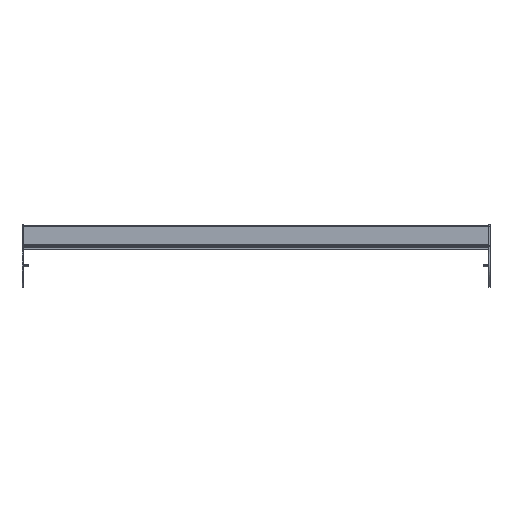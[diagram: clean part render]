
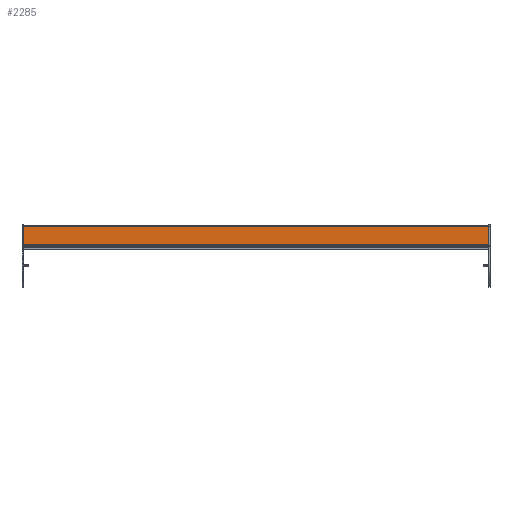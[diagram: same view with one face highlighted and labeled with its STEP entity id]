
A CAD part, top view. The second image highlights one B-rep face of the part: STEP entity #2285.
In plain terms, the highlighted planar face has unit normal (0, 0, 1) as drawn and (1, 0, 0) by its records, which use the part's own axes.
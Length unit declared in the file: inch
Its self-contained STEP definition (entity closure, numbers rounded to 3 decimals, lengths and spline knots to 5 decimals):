
#197=DIRECTION('',(0.,1.,0.));
#198=VECTOR('',#197,1.81445);
#199=CARTESIAN_POINT('',(0.683,-0.84545,-23.118));
#200=LINE('',#199,#198);
#303=DIRECTION('',(0.,1.,0.));
#304=VECTOR('',#303,1.81445);
#305=CARTESIAN_POINT('',(0.683,-0.84545,23.118));
#306=LINE('',#305,#304);
#646=DIRECTION('',(0.,0.,1.));
#647=VECTOR('',#646,46.236);
#648=CARTESIAN_POINT('',(0.683,0.969,-23.118));
#649=LINE('',#648,#647);
#659=DIRECTION('',(0.,0.,-1.));
#660=VECTOR('',#659,46.236);
#661=CARTESIAN_POINT('',(0.683,-0.84545,23.118));
#662=LINE('',#661,#660);
#1270=CARTESIAN_POINT('',(0.683,-0.84545,-23.118));
#1271=CARTESIAN_POINT('',(0.683,0.969,-23.118));
#1272=VERTEX_POINT('',#1270);
#1273=VERTEX_POINT('',#1271);
#1274=CARTESIAN_POINT('',(0.683,-0.84545,23.118));
#1275=CARTESIAN_POINT('',(0.683,0.969,23.118));
#1276=VERTEX_POINT('',#1274);
#1277=VERTEX_POINT('',#1275);
#2273=CARTESIAN_POINT('',(0.683,-0.86334,-23.118));
#2274=DIRECTION('',(1.,0.,0.));
#2275=DIRECTION('',(0.,1.,0.));
#2276=AXIS2_PLACEMENT_3D('',#2273,#2274,#2275);
#2277=PLANE('',#2276);
#2278=ORIENTED_EDGE('',*,*,#1631,.F.);
#2280=ORIENTED_EDGE('',*,*,#2279,.F.);
#2281=ORIENTED_EDGE('',*,*,#1734,.T.);
#2282=ORIENTED_EDGE('',*,*,#2266,.F.);
#2283=EDGE_LOOP('',(#2278,#2280,#2281,#2282));
#2284=FACE_OUTER_BOUND('',#2283,.F.);
#1631=EDGE_CURVE('',#1272,#1273,#200,.T.);
#1734=EDGE_CURVE('',#1276,#1277,#306,.T.);
#2266=EDGE_CURVE('',#1273,#1277,#649,.T.);
#2279=EDGE_CURVE('',#1276,#1272,#662,.T.);
#2285=ADVANCED_FACE('',(#2284),#2277,.T.);
